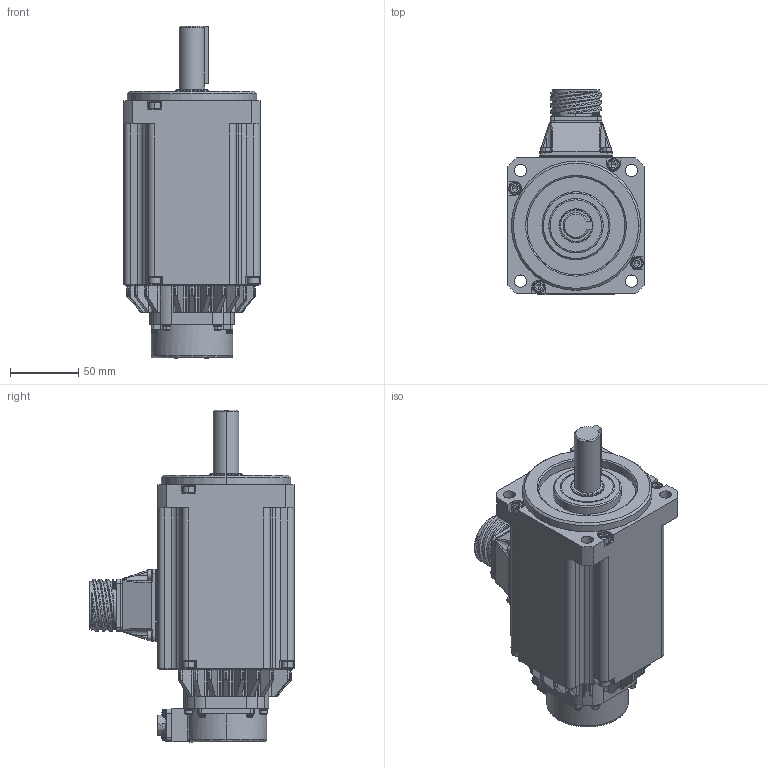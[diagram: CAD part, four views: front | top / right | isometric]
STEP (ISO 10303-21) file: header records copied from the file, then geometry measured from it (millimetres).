
FILE_DESCRIPTION (( 'STEP AP203' ), '1' );
FILE_NAME ('TSM3412N2371E731‘•”z.STEP', '2018-06-23T11:50:17', ( '' ), ( '' ), 'SwSTEP 2.0', 'SolidWorks 2017', '' );
FILE_SCHEMA (( 'CONFIG_CONTROL_DESIGN' ));
Products named in the file (1): TSM3412N2371E731装配
Bounding box: 100 x 150 x 244 mm (x, y, z)
Volume: 1503009.6 mm3; surface area: 129663.8 mm2
Topology: 1 solids, 19 shells, 1791 faces, 4846 edges, 3157 vertices
Faces by surface type: plane 728, cylinder 557, bspline 348, cone 158
Entity records: 85225 total; most frequent: CARTESIAN_POINT 44896, ORIENTED_EDGE 9570, DIRECTION 6353, EDGE_CURVE 4785, VERTEX_POINT 3157, LINE 2349, VECTOR 2349, AXIS2_PLACEMENT_3D 2002
